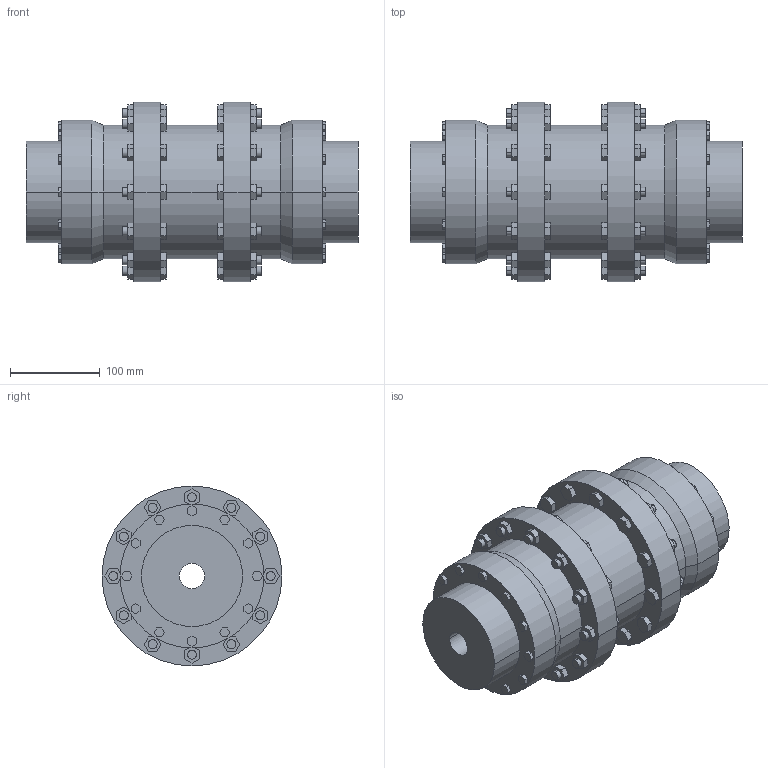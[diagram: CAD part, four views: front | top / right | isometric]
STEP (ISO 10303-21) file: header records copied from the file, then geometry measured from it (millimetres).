
FILE_DESCRIPTION((''),'2;1');
FILE_NAME('A19028100-0_ASM','2018-10-17T',('AB_Roschiwal'),('RENK AG'),'PRO/ENGINEER BY PARAMETRIC TECHNOLOGY CORPORATION, 2015440','PRO/ENGINEER BY PARAMETRIC TECHNOLOGY CORPORATION, 2015440','');
FILE_SCHEMA(('CONFIG_CONTROL_DESIGN'));
Length unit declared in the file: millimetre
Products named in the file (3): SBLK70_GEHAEUSE; SBLK70_NABE; A19028100-0_ASM
Assembly tree (3 placements, depth 2):
  A19028100-0_ASM
    SBLK70_GEHAEUSE
    SBLK70_NABE  x2
Bounding box: 369 x 200 x 200 mm (x, y, z)
Volume: 4158716.1 mm3; surface area: 513662.8 mm2
Topology: 3 solids, 3 shells, 632 faces, 1552 edges, 1032 vertices
Faces by surface type: plane 544, cylinder 84, cone 4
Entity records: 18164 total; most frequent: CARTESIAN_POINT 3170, ORIENTED_EDGE 3056, DIRECTION 2932, EDGE_CURVE 1528, VECTOR 1376, LINE 1376, VERTEX_POINT 1016, AXIS2_PLACEMENT_3D 778
